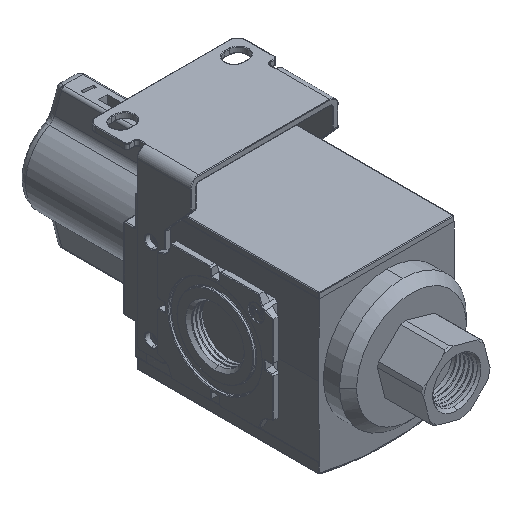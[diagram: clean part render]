
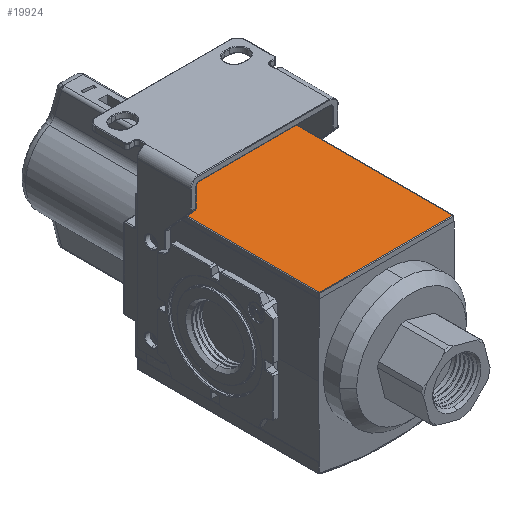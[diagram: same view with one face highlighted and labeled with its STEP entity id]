
A CAD part, isometric view. The second image highlights one B-rep face of the part: STEP entity #19924.
In plain terms, the highlighted planar face has unit normal (0, 0, 1).
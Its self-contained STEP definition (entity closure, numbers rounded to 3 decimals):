
#1338 = PLANE ( 'NONE',  #35816 ) ;
#5212 = ORIENTED_EDGE ( 'NONE', *, *, #41403, .F. ) ;
#5226 = VERTEX_POINT ( 'NONE', #35082 ) ;
#6245 = EDGE_LOOP ( 'NONE', ( #48707, #5212, #17368, #50055 ) ) ;
#6631 = EDGE_CURVE ( 'NONE', #40992, #9400, #47536, .T. ) ;
#9400 = VERTEX_POINT ( 'NONE', #30812 ) ;
#12584 = VECTOR ( 'NONE', #34916, 1000. ) ;
#12977 = CARTESIAN_POINT ( 'NONE',  ( -43.045, -24.125, 87.8 ) ) ;
#14115 = EDGE_CURVE ( 'NONE', #5226, #40992, #15172, .T. ) ;
#15172 = LINE ( 'NONE', #32306, #44531 ) ;
#17267 = LINE ( 'NONE', #29287, #23505 ) ;
#17368 = ORIENTED_EDGE ( 'NONE', *, *, #38848, .T. ) ;
#19924 = ADVANCED_FACE ( 'NONE', ( #50485 ), #1338, .T. ) ;
#23505 = VECTOR ( 'NONE', #47454, 1000. ) ;
#29172 = DIRECTION ( 'NONE',  ( 0., -1., 0. ) ) ;
#29287 = CARTESIAN_POINT ( 'NONE',  ( 4.227, 39.647, 87.8 ) ) ;
#30812 = CARTESIAN_POINT ( 'NONE',  ( -42.817, -24.125, 87.8 ) ) ;
#31505 = LINE ( 'NONE', #12977, #40919 ) ;
#32306 = CARTESIAN_POINT ( 'NONE',  ( -43.045, 39.419, 87.8 ) ) ;
#32659 = DIRECTION ( 'NONE',  ( -1., 0., 0. ) ) ;
#33323 = CARTESIAN_POINT ( 'NONE',  ( -43.045, 39.647, 87.8 ) ) ;
#34231 = VERTEX_POINT ( 'NONE', #34230 ) ;
#34230 = CARTESIAN_POINT ( 'NONE',  ( 4.227, -24.125, 87.8 ) ) ;
#34741 = CARTESIAN_POINT ( 'NONE',  ( -42.817, 39.647, 87.8 ) ) ;
#34916 = DIRECTION ( 'NONE',  ( 0., -1., 0. ) ) ;
#35082 = CARTESIAN_POINT ( 'NONE',  ( 4.227, 39.419, 87.8 ) ) ;
#35816 = AXIS2_PLACEMENT_3D ( 'NONE', #33323, #41385, #29172 ) ;
#38848 = EDGE_CURVE ( 'NONE', #34231, #5226, #17267, .T. ) ;
#40363 = DIRECTION ( 'NONE',  ( -1., 0., 0. ) ) ;
#40919 = VECTOR ( 'NONE', #40363, 1000. ) ;
#40992 = VERTEX_POINT ( 'NONE', #42072 ) ;
#41385 = DIRECTION ( 'NONE',  ( 0., 0., 1. ) ) ;
#41403 = EDGE_CURVE ( 'NONE', #34231, #9400, #31505, .T. ) ;
#42072 = CARTESIAN_POINT ( 'NONE',  ( -42.817, 39.419, 87.8 ) ) ;
#44531 = VECTOR ( 'NONE', #32659, 1000. ) ;
#47454 = DIRECTION ( 'NONE',  ( 0., 1., 0. ) ) ;
#47536 = LINE ( 'NONE', #34741, #12584 ) ;
#48707 = ORIENTED_EDGE ( 'NONE', *, *, #6631, .T. ) ;
#50055 = ORIENTED_EDGE ( 'NONE', *, *, #14115, .T. ) ;
#50485 = FACE_OUTER_BOUND ( 'NONE', #6245, .T. ) ;
